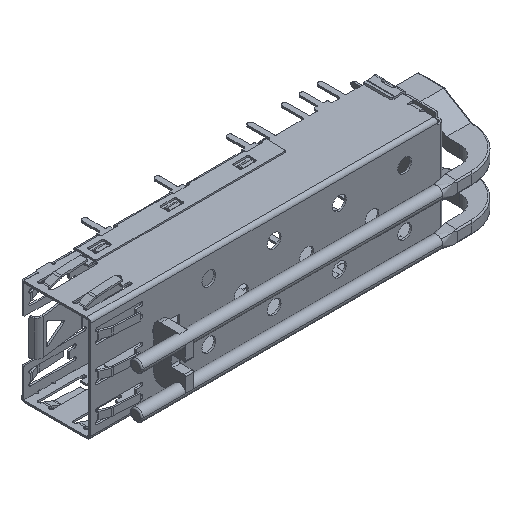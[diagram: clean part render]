
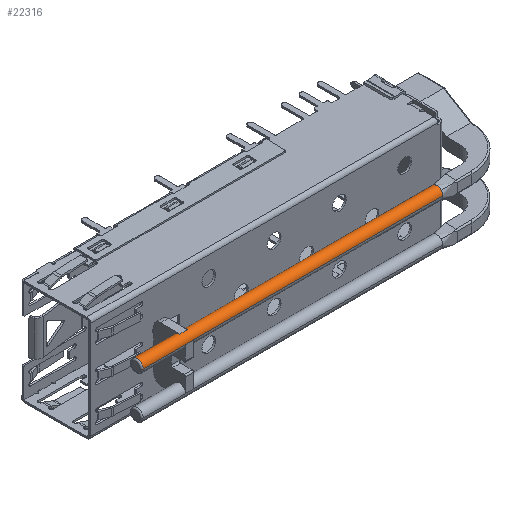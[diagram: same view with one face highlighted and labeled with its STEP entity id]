
A CAD part, isometric view. The second image highlights one B-rep face of the part: STEP entity #22316.
In plain terms, the highlighted cylindrical face has radius 0.825 mm (diameter 1.65 mm), a partial arc.
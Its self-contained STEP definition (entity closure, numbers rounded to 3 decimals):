
#225 = CARTESIAN_POINT ( 'NONE',  ( 4.189, -8.534, 3.92 ) ) ;
#257 = CARTESIAN_POINT ( 'NONE',  ( -30.181, -8.534, 3.92 ) ) ;
#262 = CARTESIAN_POINT ( 'NONE',  ( -31.299, -10.184, 3.92 ) ) ;
#264 = CARTESIAN_POINT ( 'NONE',  ( 4.189, -10.184, 3.92 ) ) ;
#282 = CARTESIAN_POINT ( 'NONE',  ( -37.131, -10.184, 3.92 ) ) ;
#299 = CARTESIAN_POINT ( 'NONE',  ( -37.131, -8.534, 3.92 ) ) ;
#300 = CARTESIAN_POINT ( 'NONE',  ( -31.256, -8.534, 3.92 ) ) ;
#331 = CARTESIAN_POINT ( 'NONE',  ( -30.181, -10.184, 3.92 ) ) ;
#373 = CARTESIAN_POINT ( 'NONE',  ( -30.181, -9.359, 4.745 ) ) ;
#420 = CARTESIAN_POINT ( 'NONE',  ( 4.189, -9.942, 4.503 ) ) ;
#477 = CARTESIAN_POINT ( 'NONE',  ( 4.189, -8.776, 4.503 ) ) ;
#514 = CARTESIAN_POINT ( 'NONE',  ( -31.277, -9.359, 4.745 ) ) ;
#1479 = VERTEX_POINT ( 'NONE', #225 ) ;
#1492 = VERTEX_POINT ( 'NONE', #257 ) ;
#1497 = VERTEX_POINT ( 'NONE', #262 ) ;
#1500 = VERTEX_POINT ( 'NONE', #264 ) ;
#1511 = VERTEX_POINT ( 'NONE', #282 ) ;
#1525 = VERTEX_POINT ( 'NONE', #299 ) ;
#1532 = VERTEX_POINT ( 'NONE', #300 ) ;
#1534 = VERTEX_POINT ( 'NONE', #331 ) ;
#1599 = VERTEX_POINT ( 'NONE', #373 ) ;
#1678 = VERTEX_POINT ( 'NONE', #420 ) ;
#1710 = VERTEX_POINT ( 'NONE', #477 ) ;
#1724 = VERTEX_POINT ( 'NONE', #514 ) ;
#4056 = EDGE_CURVE ( 'NONE', #1525, #1532, #28026, .T. ) ;
#4063 = EDGE_CURVE ( 'NONE', #1511, #1497, #28104, .T. ) ;
#4106 = EDGE_CURVE ( 'NONE', #1534, #1500, #26764, .T. ) ;
#4120 = EDGE_CURVE ( 'NONE', #1492, #1479, #36132, .T. ) ;
#4149 = EDGE_CURVE ( 'NONE', #1599, #1492, #36020, .T. ) ;
#4170 = EDGE_CURVE ( 'NONE', #1497, #1534, #36244, .T. ) ;
#4264 = EDGE_CURVE ( 'NONE', #1525, #1511, #36667, .T. ) ;
#4280 = EDGE_CURVE ( 'NONE', #1479, #1710, #12210, .T. ) ;
#4304 = EDGE_CURVE ( 'NONE', #1678, #1500, #12155, .T. ) ;
#4308 = EDGE_CURVE ( 'NONE', #1710, #1678, #12157, .T. ) ;
#4348 = EDGE_CURVE ( 'NONE', #1724, #1532, #12164, .T. ) ;
#4369 = EDGE_CURVE ( 'NONE', #1724, #1599, #36885, .T. ) ;
#9240 = AXIS2_PLACEMENT_3D ( 'NONE', #34721, #34735, #34764 ) ;
#9250 = AXIS2_PLACEMENT_3D ( 'NONE', #35578, #35552, #35564 ) ;
#12155 = B_SPLINE_CURVE_WITH_KNOTS ( 'NONE', 3,
 ( #38002, #38012, #38038, #38041, #38009, #38003 ),
 .UNSPECIFIED., .F., .F.,
 ( 4, 2, 4 ),
 ( 0., 0.25, 0.5 ),
 .UNSPECIFIED. ) ;
#12157 = B_SPLINE_CURVE_WITH_KNOTS ( 'NONE', 3,
 ( #38010, #38019, #38020, #38027, #38028, #38031, #38032, #38033, #38052, #38044 ),
 .UNSPECIFIED., .F., .F.,
 ( 4, 2, 2, 2, 4 ),
 ( 0., 0.25, 0.5, 0.75, 1. ),
 .UNSPECIFIED. ) ;
#12164 =( BOUNDED_CURVE ( )  B_SPLINE_CURVE ( 3, ( #38200, #38282, #38246, #38206 ),
 .UNSPECIFIED., .F., .F. ) 
 B_SPLINE_CURVE_WITH_KNOTS ( ( 4, 4 ),
 ( 4.712, 6.283 ),
 .UNSPECIFIED. ) 
 CURVE ( )  GEOMETRIC_REPRESENTATION_ITEM ( )  RATIONAL_B_SPLINE_CURVE ( ( 1., 0.805, 0.805, 1. ) ) 
 REPRESENTATION_ITEM ( '' )  );
#12210 = B_SPLINE_CURVE_WITH_KNOTS ( 'NONE', 3,
 ( #35756, #35733, #35787, #35739, #35791, #35717 ),
 .UNSPECIFIED., .F., .F.,
 ( 4, 2, 4 ),
 ( 0.5, 0.75, 1. ),
 .UNSPECIFIED. ) ;
#15698 = AXIS2_PLACEMENT_3D ( 'NONE', #20415, #20359, #20350 ) ;
#20350 = DIRECTION ( 'NONE',  ( 0., -1., 0. ) ) ;
#20359 = DIRECTION ( 'NONE',  ( 1., 0., 0. ) ) ;
#20415 = CARTESIAN_POINT ( 'NONE',  ( -37.331, -9.359, 3.92 ) ) ;
#20732 = ORIENTED_EDGE ( 'NONE', *, *, #4348, .T. ) ;
#20737 = ORIENTED_EDGE ( 'NONE', *, *, #4280, .F. ) ;
#20752 = ORIENTED_EDGE ( 'NONE', *, *, #4056, .F. ) ;
#20784 = ORIENTED_EDGE ( 'NONE', *, *, #4264, .T. ) ;
#20786 = ORIENTED_EDGE ( 'NONE', *, *, #4149, .F. ) ;
#20787 = ORIENTED_EDGE ( 'NONE', *, *, #4308, .F. ) ;
#20791 = ORIENTED_EDGE ( 'NONE', *, *, #4304, .F. ) ;
#20817 = ORIENTED_EDGE ( 'NONE', *, *, #4120, .F. ) ;
#20830 = ORIENTED_EDGE ( 'NONE', *, *, #4170, .T. ) ;
#20832 = ORIENTED_EDGE ( 'NONE', *, *, #4063, .T. ) ;
#20916 = ORIENTED_EDGE ( 'NONE', *, *, #4106, .T. ) ;
#20965 = ORIENTED_EDGE ( 'NONE', *, *, #4369, .F. ) ;
#22066 = FACE_OUTER_BOUND ( 'NONE', #38817, .T. ) ;
#22079 = CYLINDRICAL_SURFACE ( 'NONE', #15698, 0.825 ) ;
#22316 = ADVANCED_FACE ( 'NONE', ( #22066 ), #22079, .T. ) ;
#26764 = LINE ( 'NONE', #34552, #27055 ) ;
#27055 = VECTOR ( 'NONE', #34416, 1000. ) ;
#28026 = LINE ( 'NONE', #34028, #28031 ) ;
#28031 = VECTOR ( 'NONE', #34030, 1000. ) ;
#28089 = VECTOR ( 'NONE', #33971, 1000. ) ;
#28104 = LINE ( 'NONE', #33966, #28089 ) ;
#33966 = CARTESIAN_POINT ( 'NONE',  ( -37.331, -10.184, 3.92 ) ) ;
#33971 = DIRECTION ( 'NONE',  ( 1., 0., 0. ) ) ;
#34028 = CARTESIAN_POINT ( 'NONE',  ( -37.331, -8.534, 3.92 ) ) ;
#34030 = DIRECTION ( 'NONE',  ( 1., 0., 0. ) ) ;
#34416 = DIRECTION ( 'NONE',  ( 1., 0., 0. ) ) ;
#34461 = CARTESIAN_POINT ( 'NONE',  ( -37.331, -8.534, 3.92 ) ) ;
#34552 = CARTESIAN_POINT ( 'NONE',  ( -37.331, -10.184, 3.92 ) ) ;
#34583 = DIRECTION ( 'NONE',  ( 1., 0., 0. ) ) ;
#34721 = CARTESIAN_POINT ( 'NONE',  ( -30.181, -9.359, 3.92 ) ) ;
#34735 = DIRECTION ( 'NONE',  ( -1., 0., 0. ) ) ;
#34764 = DIRECTION ( 'NONE',  ( 0., 1., 0. ) ) ;
#34840 = CARTESIAN_POINT ( 'NONE',  ( -31.181, -10.184, 3.92 ) ) ;
#34860 = DIRECTION ( 'NONE',  ( 1., 0., 0. ) ) ;
#35552 = DIRECTION ( 'NONE',  ( 1., 0., 0. ) ) ;
#35564 = DIRECTION ( 'NONE',  ( 0., 1., 0. ) ) ;
#35578 = CARTESIAN_POINT ( 'NONE',  ( -37.131, -9.359, 3.92 ) ) ;
#35717 = CARTESIAN_POINT ( 'NONE',  ( 4.189, -8.776, 4.503 ) ) ;
#35733 = CARTESIAN_POINT ( 'NONE',  ( 4.189, -8.534, 4.034 ) ) ;
#35739 = CARTESIAN_POINT ( 'NONE',  ( 4.189, -8.645, 4.348 ) ) ;
#35756 = CARTESIAN_POINT ( 'NONE',  ( 4.189, -8.534, 3.92 ) ) ;
#35787 = CARTESIAN_POINT ( 'NONE',  ( 4.189, -8.559, 4.148 ) ) ;
#35791 = CARTESIAN_POINT ( 'NONE',  ( 4.189, -8.707, 4.435 ) ) ;
#36020 = CIRCLE ( 'NONE', #9240, 0.825 ) ;
#36132 = LINE ( 'NONE', #34461, #36134 ) ;
#36134 = VECTOR ( 'NONE', #34583, 1000. ) ;
#36244 = LINE ( 'NONE', #34840, #36288 ) ;
#36288 = VECTOR ( 'NONE', #34860, 1000. ) ;
#36667 = CIRCLE ( 'NONE', #9250, 0.825 ) ;
#36817 = VECTOR ( 'NONE', #38401, 1000. ) ;
#36885 = LINE ( 'NONE', #38400, #36817 ) ;
#38002 = CARTESIAN_POINT ( 'NONE',  ( 4.189, -9.942, 4.503 ) ) ;
#38003 = CARTESIAN_POINT ( 'NONE',  ( 4.189, -10.184, 3.92 ) ) ;
#38009 = CARTESIAN_POINT ( 'NONE',  ( 4.189, -10.184, 4.034 ) ) ;
#38010 = CARTESIAN_POINT ( 'NONE',  ( 4.189, -8.776, 4.503 ) ) ;
#38012 = CARTESIAN_POINT ( 'NONE',  ( 4.189, -10.011, 4.435 ) ) ;
#38019 = CARTESIAN_POINT ( 'NONE',  ( 4.189, -8.844, 4.572 ) ) ;
#38020 = CARTESIAN_POINT ( 'NONE',  ( 4.189, -8.931, 4.634 ) ) ;
#38027 = CARTESIAN_POINT ( 'NONE',  ( 4.189, -9.132, 4.721 ) ) ;
#38028 = CARTESIAN_POINT ( 'NONE',  ( 4.189, -9.245, 4.745 ) ) ;
#38031 = CARTESIAN_POINT ( 'NONE',  ( 4.189, -9.473, 4.745 ) ) ;
#38032 = CARTESIAN_POINT ( 'NONE',  ( 4.189, -9.587, 4.721 ) ) ;
#38033 = CARTESIAN_POINT ( 'NONE',  ( 4.189, -9.787, 4.634 ) ) ;
#38038 = CARTESIAN_POINT ( 'NONE',  ( 4.189, -10.073, 4.348 ) ) ;
#38041 = CARTESIAN_POINT ( 'NONE',  ( 4.189, -10.16, 4.148 ) ) ;
#38044 = CARTESIAN_POINT ( 'NONE',  ( 4.189, -9.942, 4.503 ) ) ;
#38052 = CARTESIAN_POINT ( 'NONE',  ( 4.189, -9.874, 4.572 ) ) ;
#38200 = CARTESIAN_POINT ( 'NONE',  ( -31.277, -9.359, 4.745 ) ) ;
#38206 = CARTESIAN_POINT ( 'NONE',  ( -31.256, -8.534, 3.92 ) ) ;
#38246 = CARTESIAN_POINT ( 'NONE',  ( -31.256, -8.534, 4.403 ) ) ;
#38282 = CARTESIAN_POINT ( 'NONE',  ( -31.265, -8.876, 4.745 ) ) ;
#38400 = CARTESIAN_POINT ( 'NONE',  ( -31.181, -9.359, 4.745 ) ) ;
#38401 = DIRECTION ( 'NONE',  ( 1., 0., 0. ) ) ;
#38817 = EDGE_LOOP ( 'NONE', ( #20752, #20784, #20832, #20830, #20916, #20791, #20787, #20737, #20817, #20786, #20965, #20732 ) ) ;
